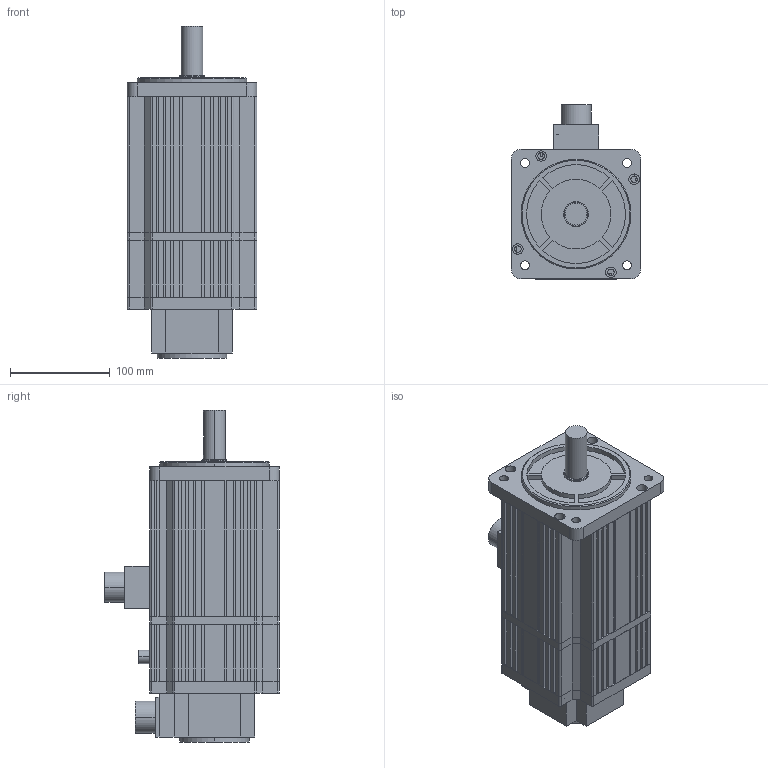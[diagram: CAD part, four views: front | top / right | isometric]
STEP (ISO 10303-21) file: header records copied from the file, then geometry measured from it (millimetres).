
FILE_DESCRIPTION (( 'STEP AP203' ), '1' );
FILE_NAME ('130-10015(带抱闸）.STEP', '2020-03-09T13:43:43', ( '' ), ( '' ), 'SwSTEP 2.0', 'SolidWorks 2016', '' );
FILE_SCHEMA (( 'CONFIG_CONTROL_DESIGN' ));
Length unit declared in the file: millimetre
Products named in the file (12): 130-10015(带抱闸）; 130侜督惕掅傷裔_1; 130惕掅儂褲_1; 130侜督綴裔_1; 130侜督ヶ裔_1; 130粣_1; 130-10N-1500隅赽; 130瑤脣_1; 惕掅芛_1; 130晤鎢ん_1; 130惕掅蚾饜极_1; 130瑤脣2_1
Assembly tree (11 placements, depth 3):
  130-10015(带抱闸）
    130-10N-1500隅赽
    130侜督ヶ裔_1
    130侜督綴裔_1
    130晤鎢ん_1
    130粣_1
    130瑤脣2_1
    130瑤脣_1
    130惕掅蚾饜极_1
      130惕掅儂褲_1
      130侜督惕掅傷裔_1
      惕掅芛_1
Bounding box: 130 x 175 x 333 mm (x, y, z)
Volume: 1404153.8 mm3; surface area: 445422.3 mm2
Topology: 14 solids, 14 shells, 807 faces, 2091 edges, 1376 vertices
Faces by surface type: plane 546, cylinder 241, cone 10, bspline 8, torus 2
Entity records: 25982 total; most frequent: CARTESIAN_POINT 4537, ORIENTED_EDGE 4166, DIRECTION 4159, EDGE_CURVE 2083, LINE 1523, VECTOR 1523, VERTEX_POINT 1376, AXIS2_PLACEMENT_3D 1318
